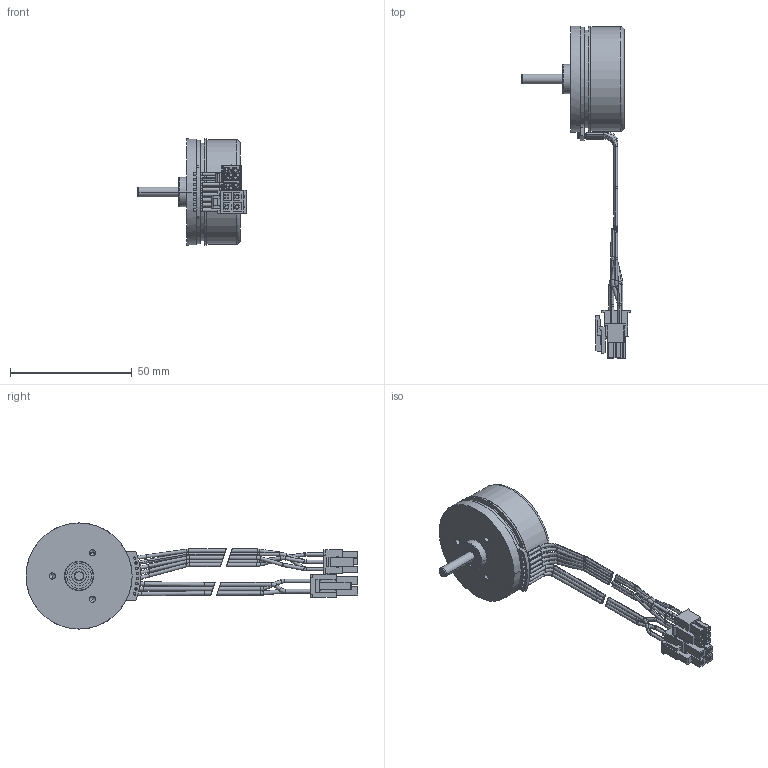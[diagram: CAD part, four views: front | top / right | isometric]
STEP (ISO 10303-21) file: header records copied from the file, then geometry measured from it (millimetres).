
FILE_DESCRIPTION((''),'2;1');
FILE_NAME('608131_4569897','2020-04-20T',('MMAGVISI'),(''),'CREO PARAMETRIC BY PTC INC, 2017300','CREO PARAMETRIC BY PTC INC, 2017300','');
FILE_SCHEMA(('CONFIG_CONTROL_DESIGN'));
Length unit declared in the file: millimetre
Products named in the file (1): 608131_4569897
Bounding box: 44.5 x 136.12 x 43.5 mm (x, y, z)
Volume: 34727.8 mm3; surface area: 13813 mm2
Topology: 11 solids, 11 shells, 732 faces, 2151 edges, 1475 vertices
Faces by surface type: plane 413, cylinder 231, torus 74, cone 10, revolution 4
Entity records: 33065 total; most frequent: CARTESIAN_POINT 5184, ORIENTED_EDGE 4290, DIRECTION 4277, PRESENTATION_STYLE_ASSIGNMENT 2308, STYLED_ITEM 2160, CURVE_STYLE 2149, EDGE_CURVE 2145, AXIS2_PLACEMENT_3D 1517
